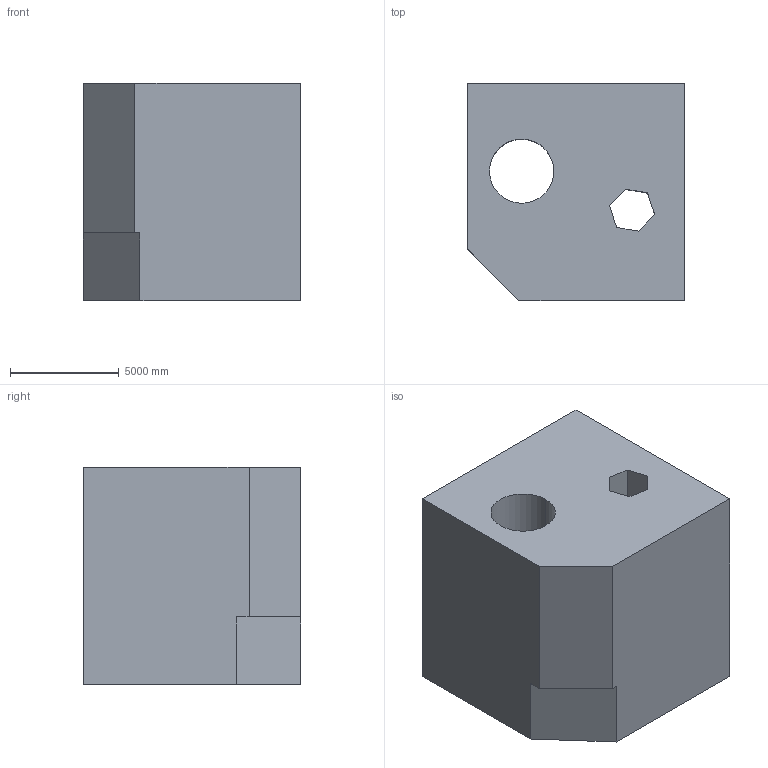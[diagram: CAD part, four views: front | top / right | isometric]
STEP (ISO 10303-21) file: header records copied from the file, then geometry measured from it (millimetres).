
FILE_DESCRIPTION (( 'STEP AP203' ), '1' );
FILE_NAME ('298.STEP', '2022-09-07T12:42:03', ( 'user' ), ( '' ), 'SwSTEP 2.0', 'SolidWorks 2021', '' );
FILE_SCHEMA (( 'CONFIG_CONTROL_DESIGN' ));
Length unit declared in the file: centimetre
Products named in the file (1): 298
Bounding box: 10000 x 10000 x 10000 mm (x, y, z)
Volume: 840196768510 mm3; surface area: 708627448.3 mm2
Topology: 1 solids, 1 shells, 19 faces, 51 edges, 34 vertices
Faces by surface type: plane 16, cylinder 3
Entity records: 676 total; most frequent: CARTESIAN_POINT 105, ORIENTED_EDGE 102, DIRECTION 97, EDGE_CURVE 51, LINE 45, VECTOR 45, VERTEX_POINT 34, AXIS2_PLACEMENT_3D 26
